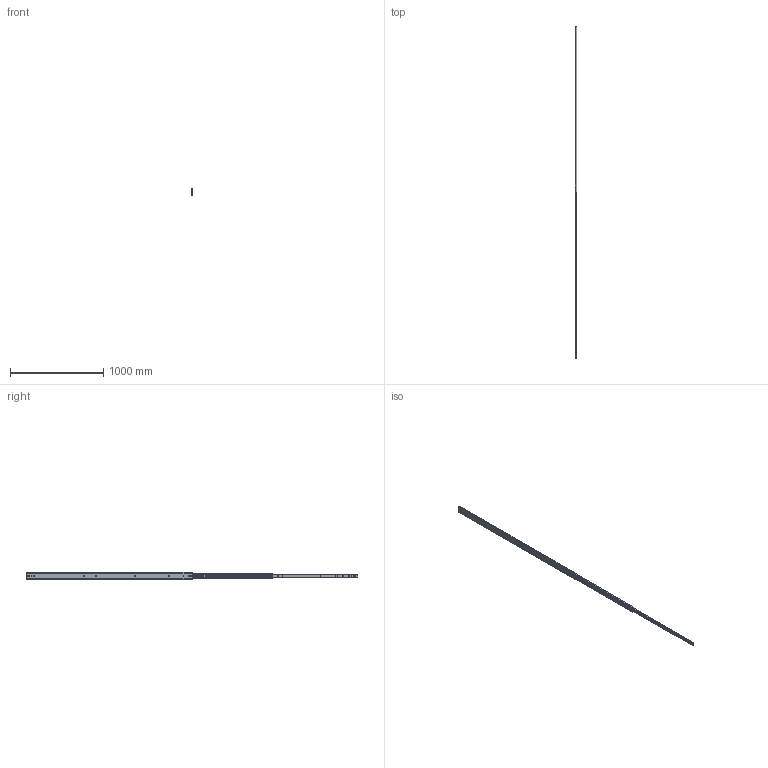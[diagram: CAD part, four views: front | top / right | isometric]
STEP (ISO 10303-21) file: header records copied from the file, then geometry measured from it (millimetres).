
FILE_DESCRIPTION(/* description */ ('Unknown'),/* implementation_level */ '2;1');
FILE_NAME(/* name */ '76J01-70 open',/* time_stamp */ '2024-07-30T15:45:14+08:00',/* author */ ('Unknown'),/* organization */ ('Unknown'),/* preprocessor_version */ 'ST-DEVELOPER v18.104',/* originating_system */ 'Solid Edge',/* authorisation */ 'Unknown');
FILE_SCHEMA (('AUTOMOTIVE_DESIGN {1 0 10303 214 3 1 1}'));
Length unit declared in the file: millimetre
Products named in the file (4): 76J01-70 open; 76J01 70 inch 內_0; 76J01 70 吋中_0; 76J01 70 吋
Assembly tree (3 placements, depth 2):
  76J01-70 open
    76J01 70 inch 內_0
    76J01 70 吋中_0
    76J01 70 吋
Bounding box: 19.3 x 3555.3 x 76.75 mm (x, y, z)
Volume: 1408227 mm3; surface area: 874870.7 mm2
Topology: 3 solids, 3 shells, 196 faces, 606 edges, 410 vertices
Faces by surface type: plane 104, cylinder 92
Full cylindrical faces by diameter (mm): 5.2 x16, 7.1 x2
Entity records: 7179 total; most frequent: CARTESIAN_POINT 1168, DIRECTION 1152, ORIENTED_EDGE 1140, EDGE_CURVE 570, VERTEX_POINT 392, LINE 384, VECTOR 384, AXIS2_PLACEMENT_3D 384
